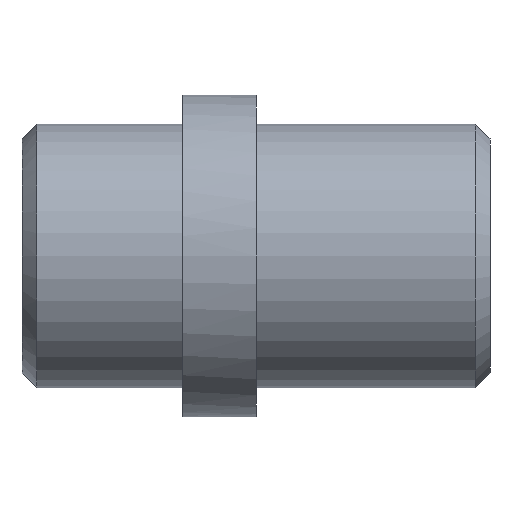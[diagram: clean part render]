
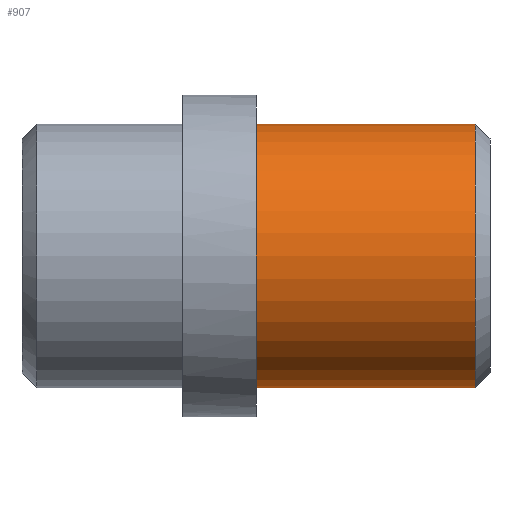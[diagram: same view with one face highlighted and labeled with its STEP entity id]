
A CAD part, front view. The second image highlights one B-rep face of the part: STEP entity #907.
In plain terms, the highlighted cylindrical face has radius 9 mm (diameter 18 mm), a partial arc.
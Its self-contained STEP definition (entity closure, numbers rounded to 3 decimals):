
#773=CARTESIAN_POINT('Vertex',(0.,0.,-9.)) ;
#778=CARTESIAN_POINT('Axis2P3D Location',(0.,0.,0.)) ;
#782=CARTESIAN_POINT('Vertex',(0.,-9.,0.)) ;
#785=CARTESIAN_POINT('Axis2P3D Location',(0.,0.,0.)) ;
#789=CARTESIAN_POINT('Vertex',(0.,0.,9.)) ;
#813=CARTESIAN_POINT('Vertex',(15.,0.,9.)) ;
#820=CARTESIAN_POINT('Vertex',(15.,0.,-9.)) ;
#849=CARTESIAN_POINT('Axis2P3D Location',(15.,0.,0.)) ;
#853=CARTESIAN_POINT('Vertex',(15.,-9.,0.)) ;
#856=CARTESIAN_POINT('Axis2P3D Location',(15.,0.,0.)) ;
#875=CARTESIAN_POINT('Line Origine',(16.,0.,9.)) ;
#880=CARTESIAN_POINT('Line Origine',(16.,0.,-9.)) ;
#894=CARTESIAN_POINT('Axis2P3D Location',(16.,0.,0.)) ;
#779=DIRECTION('Axis2P3D Direction',(1.,0.,-0.)) ;
#786=DIRECTION('Axis2P3D Direction',(1.,0.,-0.)) ;
#850=DIRECTION('Axis2P3D Direction',(-1.,0.,0.)) ;
#857=DIRECTION('Axis2P3D Direction',(-1.,0.,0.)) ;
#876=DIRECTION('Vector Direction',(-1.,0.,0.)) ;
#881=DIRECTION('Vector Direction',(-1.,0.,0.)) ;
#895=DIRECTION('Axis2P3D Direction',(-1.,-0.,-0.)) ;
#896=DIRECTION('Axis2P3D XDirection',(0.,0.,-1.)) ;
#780=AXIS2_PLACEMENT_3D('Circle Axis2P3D',#778,#779,$) ;
#787=AXIS2_PLACEMENT_3D('Circle Axis2P3D',#785,#786,$) ;
#851=AXIS2_PLACEMENT_3D('Circle Axis2P3D',#849,#850,$) ;
#858=AXIS2_PLACEMENT_3D('Circle Axis2P3D',#856,#857,$) ;
#897=AXIS2_PLACEMENT_3D('Cylinder Axis2P3D',#894,#895,#896) ;
#900=ORIENTED_EDGE('',*,*,#884,.T.) ;
#901=ORIENTED_EDGE('',*,*,#860,.F.) ;
#902=ORIENTED_EDGE('',*,*,#855,.F.) ;
#903=ORIENTED_EDGE('',*,*,#879,.T.) ;
#904=ORIENTED_EDGE('',*,*,#791,.T.) ;
#905=ORIENTED_EDGE('',*,*,#784,.T.) ;
#877=VECTOR('Line Direction',#876,1.) ;
#882=VECTOR('Line Direction',#881,1.) ;
#907=ADVANCED_FACE('G403-12X32',(#906),#898,.T.) ;
#781=CIRCLE('generated circle',#780,9.) ;
#788=CIRCLE('generated circle',#787,9.) ;
#852=CIRCLE('generated circle',#851,9.) ;
#859=CIRCLE('generated circle',#858,9.) ;
#898=CYLINDRICAL_SURFACE('generated cylinder',#897,9.) ;
#784=EDGE_CURVE('',#783,#774,#781,.T.) ;
#791=EDGE_CURVE('',#790,#783,#788,.T.) ;
#855=EDGE_CURVE('',#814,#854,#852,.F.) ;
#860=EDGE_CURVE('',#854,#821,#859,.F.) ;
#879=EDGE_CURVE('',#814,#790,#878,.T.) ;
#884=EDGE_CURVE('',#774,#821,#883,.F.) ;
#899=EDGE_LOOP('',(#900,#901,#902,#903,#904,#905)) ;
#906=FACE_OUTER_BOUND('',#899,.T.) ;
#878=LINE('Line',#875,#877) ;
#883=LINE('Line',#880,#882) ;
#774=VERTEX_POINT('',#773) ;
#783=VERTEX_POINT('',#782) ;
#790=VERTEX_POINT('',#789) ;
#814=VERTEX_POINT('',#813) ;
#821=VERTEX_POINT('',#820) ;
#854=VERTEX_POINT('',#853) ;
